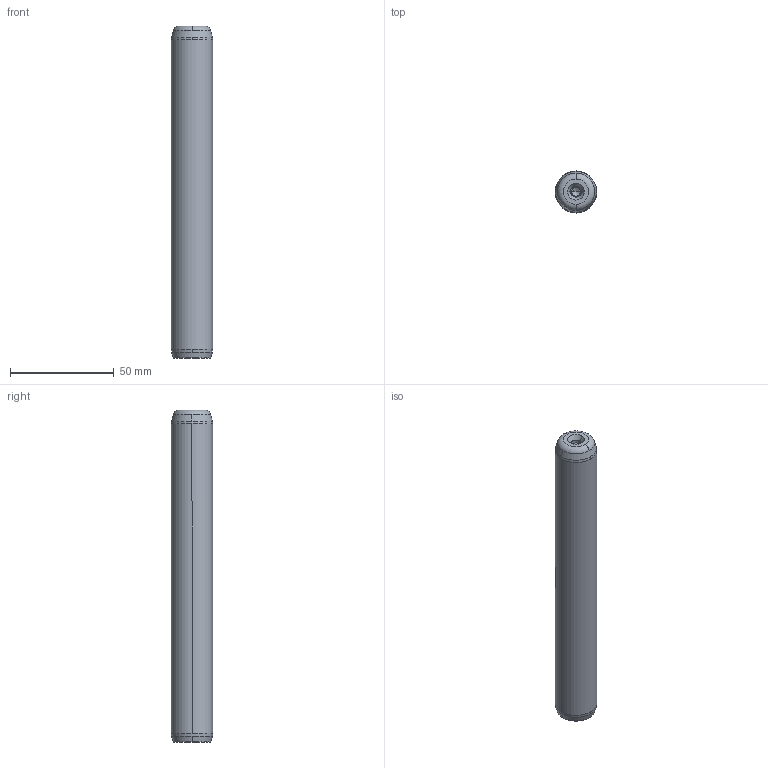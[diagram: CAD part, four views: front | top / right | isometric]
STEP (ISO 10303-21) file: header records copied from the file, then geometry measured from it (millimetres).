
FILE_DESCRIPTION((''),'2;1');
FILE_NAME('P10_020_160.stp','2008-12-23T14:29:20',(''),(''),'Mechanical Desktop 2009','Mechanical Desktop 2009',', , ');
FILE_SCHEMA(('CONFIG_CONTROL_DESIGN'));
Length unit declared in the file: millimetre
Products named in the file (5): Product; ProductAA; blmdl1; ProductA; blmdl1A
Assembly tree (2 placements, depth 3):
  Product
    ProductAA
      blmdl1
  ProductA
  blmdl1A
Bounding box: 20 x 20 x 160 mm (x, y, z)
Volume: 49515.3 mm3; surface area: 10693.6 mm2
Topology: 1 solids, 1 shells, 26 faces, 66 edges, 41 vertices
Faces by surface type: cone 10, cylinder 6, torus 4, bspline 4, plane 2
Entity records: 1172 total; most frequent: CARTESIAN_POINT 310, DIRECTION 162, ORIENTED_EDGE 128, AXIS2_PLACEMENT_3D 73, EDGE_CURVE 64, CIRCLE 48, VERTEX_POINT 41, EDGE_LOOP 27
